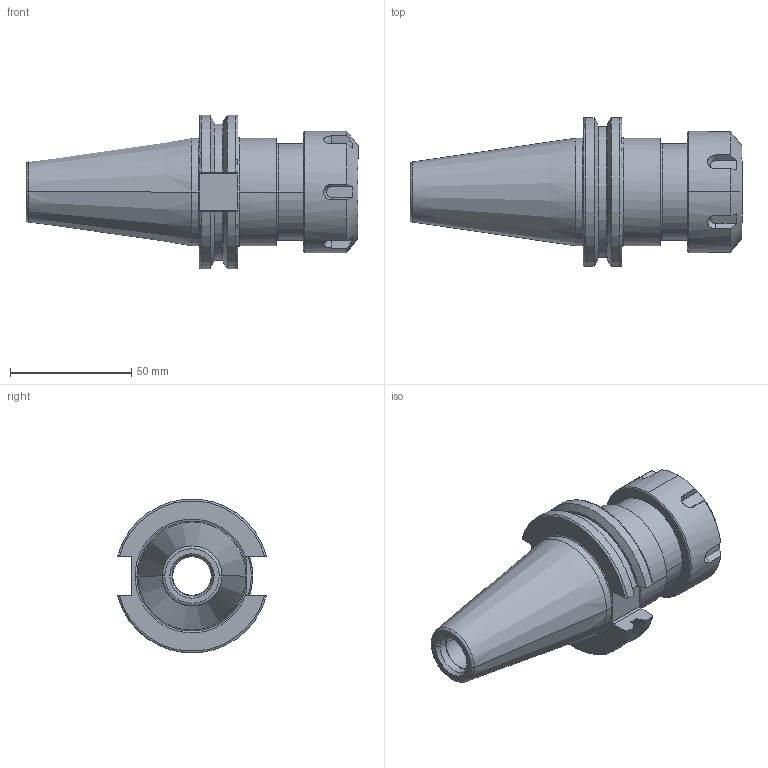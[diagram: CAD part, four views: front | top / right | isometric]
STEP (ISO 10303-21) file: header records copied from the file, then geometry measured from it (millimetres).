
FILE_DESCRIPTION (( 'STEP AP214' ), '1' );
FILE_NAME ('C4C3-0032.STEP', '2016-04-21T21:10:32', ( '' ), ( '' ), 'SwSTEP 2.0', 'SolidWorks 2016', '' );
FILE_SCHEMA (( 'AUTOMOTIVE_DESIGN' ));
Length unit declared in the file: inch
Products named in the file (1): C4C3-0032
Bounding box: 136.83 x 61.35 x 63.26 mm (x, y, z)
Volume: 134470.3 mm3; surface area: 35668.6 mm2
Topology: 1 solids, 1 shells, 643 faces, 1703 edges, 1122 vertices
Faces by surface type: plane 368, bspline 176, cylinder 42, cone 35, torus 22
Entity records: 28986 total; most frequent: CARTESIAN_POINT 14139, ORIENTED_EDGE 3402, DIRECTION 2391, EDGE_CURVE 1701, VECTOR 1131, LINE 1131, VERTEX_POINT 1122, EDGE_LOOP 707
